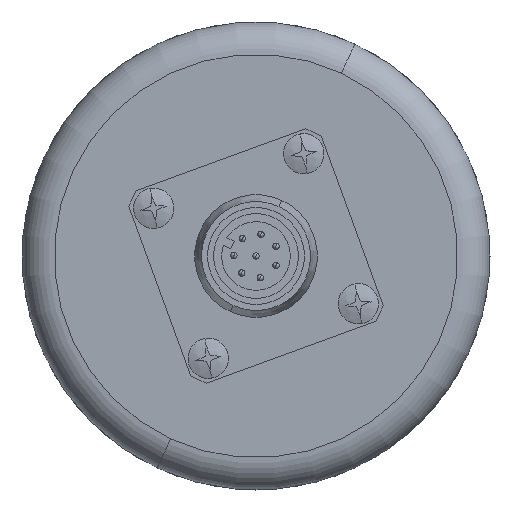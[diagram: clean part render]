
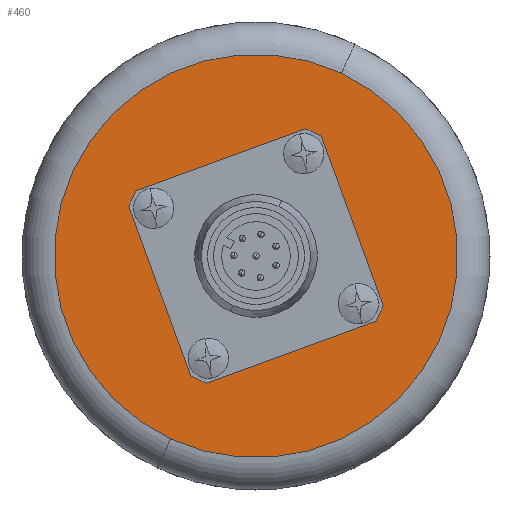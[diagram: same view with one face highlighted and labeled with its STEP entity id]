
A CAD part, left-side view. The second image highlights one B-rep face of the part: STEP entity #460.
In plain terms, the highlighted planar face has unit normal (-1, 0, 0).
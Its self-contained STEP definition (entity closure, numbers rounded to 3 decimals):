
#460 = ADVANCED_FACE ( 'NONE', ( #3585, #3589, #3583, #3579, #3587, #3590 ), #3928, .F. ) ;
#1567 = ORIENTED_EDGE ( 'NONE', *, *, #9517, .F. ) ;
#1568 = ORIENTED_EDGE ( 'NONE', *, *, #9139, .F. ) ;
#1569 = ORIENTED_EDGE ( 'NONE', *, *, #9518, .F. ) ;
#1570 = ORIENTED_EDGE ( 'NONE', *, *, #9131, .F. ) ;
#1571 = ORIENTED_EDGE ( 'NONE', *, *, #9519, .F. ) ;
#1572 = ORIENTED_EDGE ( 'NONE', *, *, #9486, .F. ) ;
#1573 = ORIENTED_EDGE ( 'NONE', *, *, #9520, .F. ) ;
#1574 = ORIENTED_EDGE ( 'NONE', *, *, #9492, .F. ) ;
#1575 = ORIENTED_EDGE ( 'NONE', *, *, #9521, .F. ) ;
#1576 = ORIENTED_EDGE ( 'NONE', *, *, #9496, .F. ) ;
#1577 = ORIENTED_EDGE ( 'NONE', *, *, #9522, .T. ) ;
#1578 = ORIENTED_EDGE ( 'NONE', *, *, #9498, .T. ) ;
#2787 = AXIS2_PLACEMENT_3D ( 'NONE', #3930, #3926, #3932 ) ;
#2958 = AXIS2_PLACEMENT_3D ( 'NONE', #5177, #5178, #5179 ) ;
#2961 = AXIS2_PLACEMENT_3D ( 'NONE', #5195, #5196, #5197 ) ;
#3161 = AXIS2_PLACEMENT_3D ( 'NONE', #7072, #7073, #7074 ) ;
#3164 = AXIS2_PLACEMENT_3D ( 'NONE', #7086, #7087, #7088 ) ;
#3166 = AXIS2_PLACEMENT_3D ( 'NONE', #7096, #7097, #7098 ) ;
#3167 = AXIS2_PLACEMENT_3D ( 'NONE', #7101, #7102, #7103 ) ;
#3182 = AXIS2_PLACEMENT_3D ( 'NONE', #7443, #7444, #7445 ) ;
#3183 = AXIS2_PLACEMENT_3D ( 'NONE', #7446, #7447, #7448 ) ;
#3184 = AXIS2_PLACEMENT_3D ( 'NONE', #7449, #7450, #7451 ) ;
#3185 = AXIS2_PLACEMENT_3D ( 'NONE', #7452, #7453, #7454 ) ;
#3186 = AXIS2_PLACEMENT_3D ( 'NONE', #7455, #7456, #7457 ) ;
#3187 = AXIS2_PLACEMENT_3D ( 'NONE', #7460, #7461, #7462 ) ;
#3579 = FACE_BOUND ( 'NONE', #10279, .T. ) ;
#3583 = FACE_BOUND ( 'NONE', #10290, .T. ) ;
#3585 = FACE_BOUND ( 'NONE', #10288, .T. ) ;
#3587 = FACE_BOUND ( 'NONE', #10289, .T. ) ;
#3589 = FACE_BOUND ( 'NONE', #10287, .T. ) ;
#3590 = FACE_OUTER_BOUND ( 'NONE', #10283, .T. ) ;
#3926 = DIRECTION ( 'NONE',  ( 1., 0., 0. ) ) ;
#3928 = PLANE ( 'NONE',  #2787 ) ;
#3930 = CARTESIAN_POINT ( 'NONE',  ( -25., 26.283, 12.256 ) ) ;
#3932 = DIRECTION ( 'NONE',  ( 0., 0.423, -0.906 ) ) ;
#4428 = CIRCLE ( 'NONE', #2958, 1.35 ) ;
#4452 = CIRCLE ( 'NONE', #2961, 1.35 ) ;
#5177 = CARTESIAN_POINT ( 'NONE',  ( -25., -12.689, -5.917 ) ) ;
#5178 = DIRECTION ( 'NONE',  ( -1., 0., 0. ) ) ;
#5179 = DIRECTION ( 'NONE',  ( 0., -0.423, 0.906 ) ) ;
#5195 = CARTESIAN_POINT ( 'NONE',  ( -25., 5.917, -12.689 ) ) ;
#5196 = DIRECTION ( 'NONE',  ( -1., 0., 0. ) ) ;
#5197 = DIRECTION ( 'NONE',  ( 0., -0.423, 0.906 ) ) ;
#6186 = CIRCLE ( 'NONE', #3161, 1.35 ) ;
#7072 = CARTESIAN_POINT ( 'NONE',  ( -25., -5.917, 12.689 ) ) ;
#7073 = DIRECTION ( 'NONE',  ( -1., 0., 0. ) ) ;
#7074 = DIRECTION ( 'NONE',  ( 0., -0.423, 0.906 ) ) ;
#7086 = CARTESIAN_POINT ( 'NONE',  ( -25., 12.689, 5.917 ) ) ;
#7087 = DIRECTION ( 'NONE',  ( -1., 0., 0. ) ) ;
#7088 = DIRECTION ( 'NONE',  ( 0., -0.423, 0.906 ) ) ;
#7096 = CARTESIAN_POINT ( 'NONE',  ( -25., 0., 0. ) ) ;
#7097 = DIRECTION ( 'NONE',  ( -1., 0., 0. ) ) ;
#7098 = DIRECTION ( 'NONE',  ( 0., -0.423, 0.906 ) ) ;
#7101 = CARTESIAN_POINT ( 'NONE',  ( -25., 0., 0. ) ) ;
#7102 = DIRECTION ( 'NONE',  ( -1., 0., 0. ) ) ;
#7103 = DIRECTION ( 'NONE',  ( 0., 0.423, -0.906 ) ) ;
#7152 = CIRCLE ( 'NONE', #3164, 1.35 ) ;
#7158 = CIRCLE ( 'NONE', #3167, 25. ) ;
#7159 = CIRCLE ( 'NONE', #3166, 10. ) ;
#7186 = CIRCLE ( 'NONE', #3182, 1.35 ) ;
#7187 = CIRCLE ( 'NONE', #3183, 1.35 ) ;
#7188 = CIRCLE ( 'NONE', #3184, 1.35 ) ;
#7189 = CIRCLE ( 'NONE', #3185, 1.35 ) ;
#7190 = CIRCLE ( 'NONE', #3186, 10. ) ;
#7191 = CIRCLE ( 'NONE', #3187, 25. ) ;
#7443 = CARTESIAN_POINT ( 'NONE',  ( -25., 5.917, -12.689 ) ) ;
#7444 = DIRECTION ( 'NONE',  ( -1., 0., 0. ) ) ;
#7445 = DIRECTION ( 'NONE',  ( 0., -0.423, 0.906 ) ) ;
#7446 = CARTESIAN_POINT ( 'NONE',  ( -25., -12.689, -5.917 ) ) ;
#7447 = DIRECTION ( 'NONE',  ( -1., 0., 0. ) ) ;
#7448 = DIRECTION ( 'NONE',  ( 0., -0.423, 0.906 ) ) ;
#7449 = CARTESIAN_POINT ( 'NONE',  ( -25., -5.917, 12.689 ) ) ;
#7450 = DIRECTION ( 'NONE',  ( -1., 0., 0. ) ) ;
#7451 = DIRECTION ( 'NONE',  ( 0., -0.423, 0.906 ) ) ;
#7452 = CARTESIAN_POINT ( 'NONE',  ( -25., 12.689, 5.917 ) ) ;
#7453 = DIRECTION ( 'NONE',  ( -1., 0., 0. ) ) ;
#7454 = DIRECTION ( 'NONE',  ( 0., -0.423, 0.906 ) ) ;
#7455 = CARTESIAN_POINT ( 'NONE',  ( -25., 0., 0. ) ) ;
#7456 = DIRECTION ( 'NONE',  ( -1., 0., 0. ) ) ;
#7457 = DIRECTION ( 'NONE',  ( 0., -0.423, 0.906 ) ) ;
#7460 = CARTESIAN_POINT ( 'NONE',  ( -25., 0., 0. ) ) ;
#7461 = DIRECTION ( 'NONE',  ( -1., 0., 0. ) ) ;
#7462 = DIRECTION ( 'NONE',  ( 0., 0.423, -0.906 ) ) ;
#8709 = CARTESIAN_POINT ( 'NONE',  ( -25., 6.487, -13.912 ) ) ;
#8710 = CARTESIAN_POINT ( 'NONE',  ( -25., 5.346, -11.465 ) ) ;
#8713 = CARTESIAN_POINT ( 'NONE',  ( -25., -12.118, -7.14 ) ) ;
#8714 = CARTESIAN_POINT ( 'NONE',  ( -25., -13.259, -4.693 ) ) ;
#8717 = CARTESIAN_POINT ( 'NONE',  ( -25., -5.346, 11.465 ) ) ;
#8718 = CARTESIAN_POINT ( 'NONE',  ( -25., -6.487, 13.912 ) ) ;
#8721 = CARTESIAN_POINT ( 'NONE',  ( -25., 13.259, 4.693 ) ) ;
#8722 = CARTESIAN_POINT ( 'NONE',  ( -25., 12.118, 7.14 ) ) ;
#8723 = CARTESIAN_POINT ( 'NONE',  ( -25., -10.565, 22.658 ) ) ;
#8724 = CARTESIAN_POINT ( 'NONE',  ( -25., 10.565, -22.658 ) ) ;
#8725 = CARTESIAN_POINT ( 'NONE',  ( -25., 4.226, -9.063 ) ) ;
#8726 = CARTESIAN_POINT ( 'NONE',  ( -25., -4.226, 9.063 ) ) ;
#9131 = EDGE_CURVE ( 'NONE', #10176, #10177, #4428, .T. ) ;
#9139 = EDGE_CURVE ( 'NONE', #10172, #10173, #4452, .T. ) ;
#9486 = EDGE_CURVE ( 'NONE', #10180, #10181, #6186, .T. ) ;
#9492 = EDGE_CURVE ( 'NONE', #10184, #10185, #7152, .T. ) ;
#9496 = EDGE_CURVE ( 'NONE', #10188, #10189, #7159, .T. ) ;
#9498 = EDGE_CURVE ( 'NONE', #10186, #10187, #7158, .T. ) ;
#9517 = EDGE_CURVE ( 'NONE', #10173, #10172, #7186, .T. ) ;
#9518 = EDGE_CURVE ( 'NONE', #10177, #10176, #7187, .T. ) ;
#9519 = EDGE_CURVE ( 'NONE', #10181, #10180, #7188, .T. ) ;
#9520 = EDGE_CURVE ( 'NONE', #10185, #10184, #7189, .T. ) ;
#9521 = EDGE_CURVE ( 'NONE', #10189, #10188, #7190, .T. ) ;
#9522 = EDGE_CURVE ( 'NONE', #10187, #10186, #7191, .T. ) ;
#10172 = VERTEX_POINT ( 'NONE', #8709 ) ;
#10173 = VERTEX_POINT ( 'NONE', #8710 ) ;
#10176 = VERTEX_POINT ( 'NONE', #8713 ) ;
#10177 = VERTEX_POINT ( 'NONE', #8714 ) ;
#10180 = VERTEX_POINT ( 'NONE', #8717 ) ;
#10181 = VERTEX_POINT ( 'NONE', #8718 ) ;
#10184 = VERTEX_POINT ( 'NONE', #8721 ) ;
#10185 = VERTEX_POINT ( 'NONE', #8722 ) ;
#10186 = VERTEX_POINT ( 'NONE', #8723 ) ;
#10187 = VERTEX_POINT ( 'NONE', #8724 ) ;
#10188 = VERTEX_POINT ( 'NONE', #8725 ) ;
#10189 = VERTEX_POINT ( 'NONE', #8726 ) ;
#10279 = EDGE_LOOP ( 'NONE', ( #1573, #1574 ) ) ;
#10283 = EDGE_LOOP ( 'NONE', ( #1577, #1578 ) ) ;
#10287 = EDGE_LOOP ( 'NONE', ( #1569, #1570 ) ) ;
#10288 = EDGE_LOOP ( 'NONE', ( #1567, #1568 ) ) ;
#10289 = EDGE_LOOP ( 'NONE', ( #1575, #1576 ) ) ;
#10290 = EDGE_LOOP ( 'NONE', ( #1571, #1572 ) ) ;
